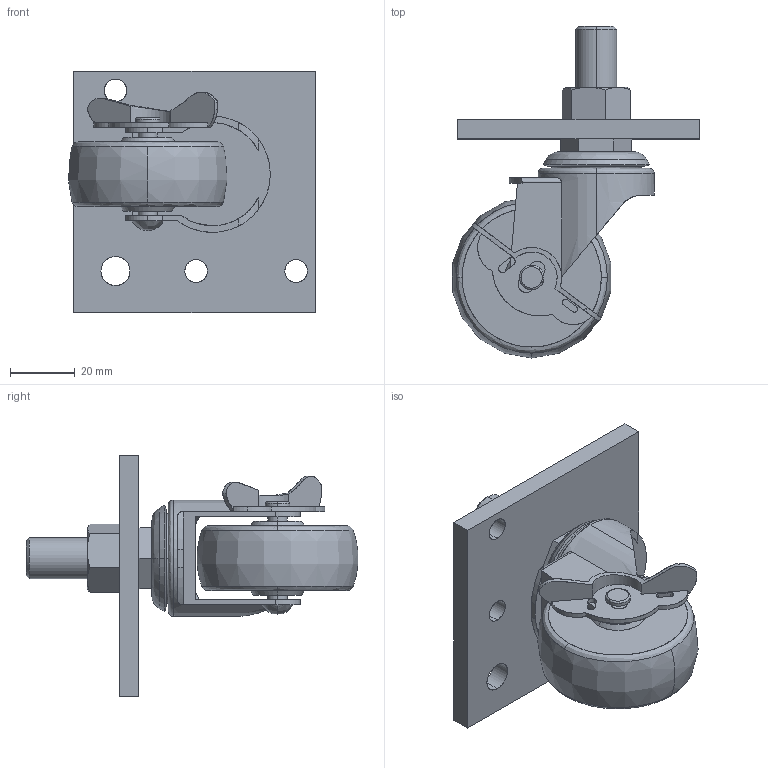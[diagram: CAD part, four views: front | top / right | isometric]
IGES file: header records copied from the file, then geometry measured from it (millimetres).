
Start section: SolidWorks IGES file using analytic representation for surfaces
Global section: file name: C:\Documents and Settings\Administrator\デスクトップ\7回目指定保存後\SolidWorks\SF\SF30\Parts\アジャスタ\SFK-506A.IGS; native system: SolidWorks 2006 by SolidWorks Corporation; preprocessor: SolidWorks 2006 by SolidWorks Corporation; author: Administrator; date: 061222.161923; units: millimetre
Bounding box: 76.56 x 102.89 x 75 mm (x, y, z)
Surface area: 31880.1 mm2 (no closed solid volume)
Topology: 0 solids, 0 shells, 159 faces, 4438 edges, 5240 vertices
Faces by surface type: bspline 80, revolution 79
